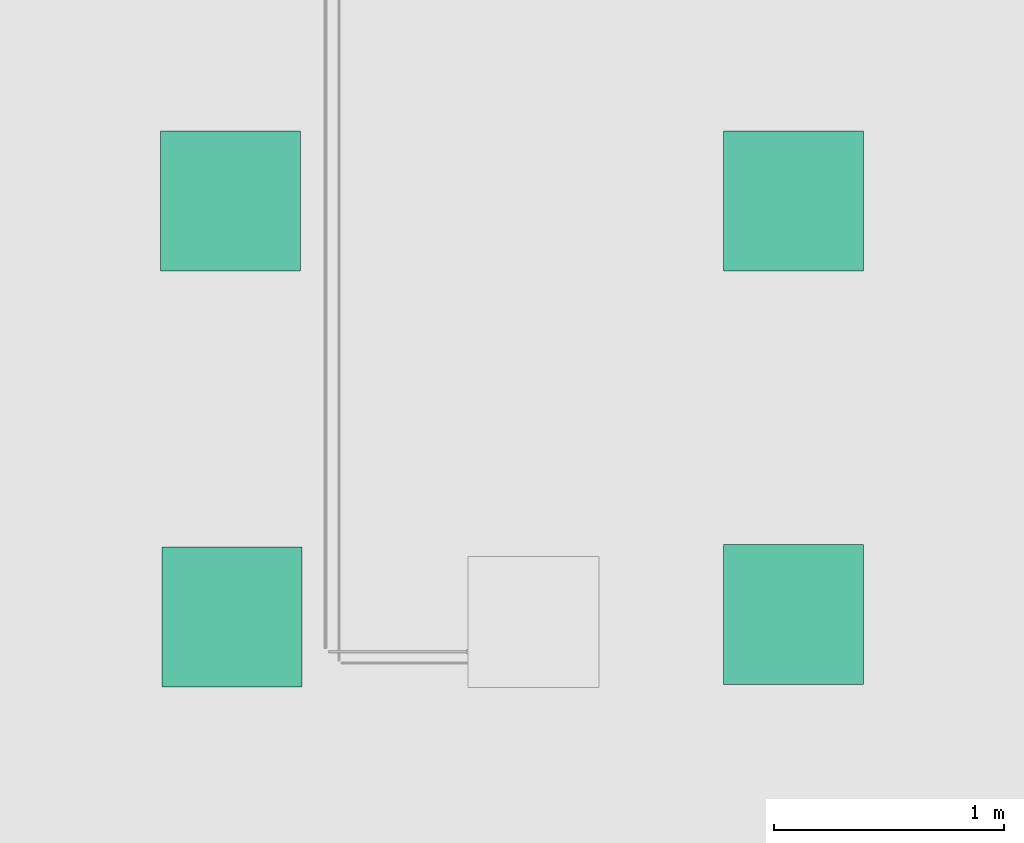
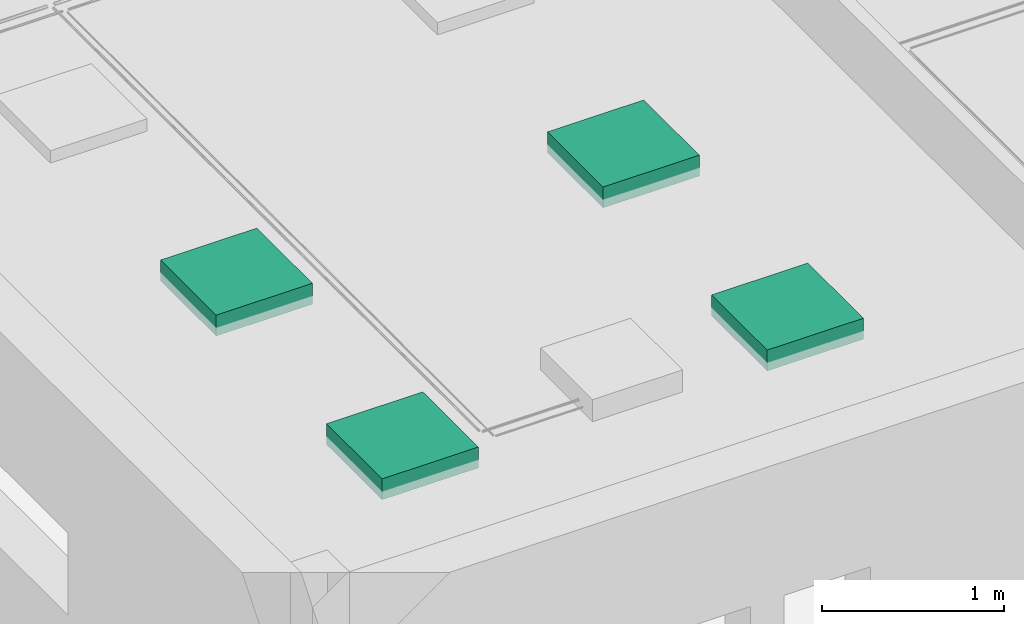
# One storey, part 6 of 24: 4 flow terminals.
"""IFC2X3 building model written with IfcOpenShell, lengths in millimetres."""

from ifc_helpers import new_model, entity, si_unit, converted_unit, derived_unit, direction, frame, frame_2d, origin, origin_2d_with_axis, place, context, subcontext, project, spatial, polyline, rectangle, outline, extrude, source, transform, mapped, material, material_list, type_object, type_shapes, element, save


model = new_model("IFC2X3")

# Units and contexts
model_context = context("Model", 3, precision=0.01, world=origin(), true_north=direction((6.123031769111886e-17, 1.0)))
body_context = subcontext(model_context, "Body", "Model", "MODEL_VIEW")
ifc_project = project(units=[si_unit("LENGTHUNIT", "METRE", prefix="MILLI"), si_unit("AREAUNIT", "SQUARE_METRE"), si_unit("VOLUMEUNIT", "CUBIC_METRE"), converted_unit("PLANEANGLEUNIT", "DEGREE", entity("IfcRatioMeasure", 0.017453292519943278), si_unit("PLANEANGLEUNIT", "RADIAN"), dimensions=[0, 0, 0, 0, 0, 0, 0]), si_unit("MASSUNIT", "GRAM", prefix="KILO"), derived_unit("MASSDENSITYUNIT", [(si_unit("MASSUNIT", "GRAM", prefix="KILO"), 1), (si_unit("LENGTHUNIT", "METRE"), -3)]), derived_unit("MOMENTOFINERTIAUNIT", [(si_unit("LENGTHUNIT", "METRE"), 4)]), si_unit("TIMEUNIT", "SECOND"), si_unit("FREQUENCYUNIT", "HERTZ"), si_unit("THERMODYNAMICTEMPERATUREUNIT", "DEGREE_CELSIUS"), derived_unit("THERMALTRANSMITTANCEUNIT", [(si_unit("MASSUNIT", "GRAM", prefix="KILO"), 1), (si_unit("THERMODYNAMICTEMPERATUREUNIT", "KELVIN"), -1), (si_unit("TIMEUNIT", "SECOND"), -3)]), derived_unit("VOLUMETRICFLOWRATEUNIT", [(si_unit("LENGTHUNIT", "METRE"), 3), (si_unit("TIMEUNIT", "SECOND"), -1)]), derived_unit("MASSFLOWRATEUNIT", [(si_unit("MASSUNIT", "GRAM", prefix="KILO"), 1), (si_unit("TIMEUNIT", "SECOND"), -1)]), derived_unit("ROTATIONALFREQUENCYUNIT", [(si_unit("TIMEUNIT", "SECOND"), -1)]), si_unit("ELECTRICCURRENTUNIT", "AMPERE"), si_unit("ELECTRICVOLTAGEUNIT", "VOLT"), si_unit("POWERUNIT", "WATT"), si_unit("FORCEUNIT", "NEWTON", prefix="KILO"), si_unit("ILLUMINANCEUNIT", "LUX"), si_unit("LUMINOUSFLUXUNIT", "LUMEN"), si_unit("LUMINOUSINTENSITYUNIT", "CANDELA"), derived_unit("USERDEFINED", [(si_unit("MASSUNIT", "GRAM", prefix="KILO"), -1), (si_unit("LENGTHUNIT", "METRE"), -2), (si_unit("TIMEUNIT", "SECOND"), 3), (si_unit("LUMINOUSFLUXUNIT", "LUMEN"), 1)]), derived_unit("SOUNDPOWERUNIT", [(si_unit("MASSUNIT", "GRAM", prefix="KILO"), 1), (si_unit("LENGTHUNIT", "METRE"), 2), (si_unit("TIMEUNIT", "SECOND"), -3)]), derived_unit("SOUNDPRESSUREUNIT", [(si_unit("MASSUNIT", "GRAM", prefix="KILO"), 1), (si_unit("LENGTHUNIT", "METRE"), -1), (si_unit("TIMEUNIT", "SECOND"), -2)]), derived_unit("LINEARVELOCITYUNIT", [(si_unit("LENGTHUNIT", "METRE"), 1), (si_unit("TIMEUNIT", "SECOND"), -1)]), si_unit("PRESSUREUNIT", "PASCAL"), derived_unit("USERDEFINED", [(si_unit("LENGTHUNIT", "METRE"), -2), (si_unit("MASSUNIT", "GRAM", prefix="KILO"), 1), (si_unit("TIMEUNIT", "SECOND"), -2)]), derived_unit("LINEARFORCEUNIT", [(si_unit("MASSUNIT", "GRAM", prefix="KILO"), 1), (si_unit("LENGTHUNIT", "METRE"), 1), (si_unit("TIMEUNIT", "SECOND"), -2), (si_unit("LENGTHUNIT", "METRE"), -1)]), derived_unit("PLANARFORCEUNIT", [(si_unit("MASSUNIT", "GRAM", prefix="KILO"), 1), (si_unit("LENGTHUNIT", "METRE"), 1), (si_unit("TIMEUNIT", "SECOND"), -2), (si_unit("LENGTHUNIT", "METRE"), -2)])], contexts=[model_context])

# Site, building, storey
site_placement = place(None, origin())
site = spatial("IfcSite", under=ifc_project, at=site_placement, Name="Default", CompositionType="ELEMENT")
building_placement = place(site_placement, origin())
building = spatial("IfcBuilding", under=site, at=building_placement, CompositionType="ELEMENT")
storey_placement = place(building_placement, origin())
storey = spatial("IfcBuildingStorey", under=building, at=storey_placement, Name="Level 1", CompositionType="ELEMENT", Elevation=0.0)

# Flow terminals
ifc_material_1 = material(Name="Glass, White, High Luminance")
ifc_material_2 = material(Name="Steel, Chrome Plated 155972")
ifc_material_list_1 = material_list([ifc_material_1, ifc_material_2, ifc_material_1, ifc_material_2])
ifc_material_list_2 = material_list([ifc_material_1, ifc_material_2, ifc_material_1, ifc_material_2])
light_fixture_type_1 = type_object("IfcLightFixtureType", Name="M_Troffer Light - Parabolic Square control rooms:0600x0600mm(2 Lamp) - 120V:0600x0600mm(2 Lamp) - 120V : M_Troffer Light - Parabolic Square control rooms:0600x0600mm(2 Lamp) - 120V", PredefinedType="NOTDEFINED", material=ifc_material_list_2)
shared_shape_1 = source(origin(), body_context, "Body", "SweptSolid", [
    extrude(rectangle(XDim=558.8, YDim=558.7999999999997, at=frame_2d((0.0, 5.400124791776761e-13), x_axis=(1.0, 0.0))), frame((-7760.566741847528, -561.671110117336, 2676.199999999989), z_axis=(0.0, 0.0, 1.0), x_axis=(0.0, 1.0, 0.0)), (0.0, 0.0, 1.0), 6.350000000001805),
    extrude(outline(polyline([(-304.8, -304.8000000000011), (304.8, -304.8000000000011), (304.8, 304.8), (-304.8, 304.8), (-304.8, -304.8000000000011)]), holes=[polyline([(279.4000000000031, 279.39999999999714), (279.4000000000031, -279.40000000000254), (-279.3999999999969, -279.40000000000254), (-279.3999999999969, 279.39999999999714), (279.4000000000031, 279.39999999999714)])]), frame((-7760.566741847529, -561.671110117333, 2600.0), z_axis=(0.0, 0.0, 1.0), x_axis=(0.0, -1.0, 0.0)), (0.0, 0.0, 1.0), 114.29999999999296),
    extrude(rectangle(XDim=558.8000000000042, YDim=558.7999999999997, at=frame_2d((5.684341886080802e-14, 5.400124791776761e-13), x_axis=(1.0, 0.0))), frame((-7760.566741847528, -561.671110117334, 2590.0), z_axis=(0.0, 0.0, 1.0), x_axis=(0.0, 1.0, 0.0)), (0.0, 0.0, 1.0), 59.99999999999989),
    extrude(rectangle(XDim=609.6, YDim=609.6000000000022, at=origin_2d_with_axis()), frame((-7760.5667418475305, -561.671110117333, 2714.2999999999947), z_axis=(0.0, 0.0, 1.0), x_axis=(0.0, 1.0, 0.0)), (0.0, 0.0, 1.0), 25.399999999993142),
])
type_shapes(light_fixture_type_1, [shared_shape_1])
flow_terminal_1_placement = place(storey_placement, origin())
element("IfcFlowTerminal", 1, at=flow_terminal_1_placement, inside=storey, type_object=light_fixture_type_1, material=ifc_material_list_1, context=body_context, shape_type="MappedRepresentation", body=[
    mapped(shared_shape_1, transform((0.0, 0.0, 0.0), scale=1.0)),
])
ifc_material_list_3 = material_list([ifc_material_1, ifc_material_2, ifc_material_1, ifc_material_2])
ifc_material_list_4 = material_list([ifc_material_1, ifc_material_2, ifc_material_1, ifc_material_2])
light_fixture_type_2 = type_object("IfcLightFixtureType", Name="M_Troffer Light - Parabolic Square control rooms:0600x0600mm(2 Lamp) - 120V:0600x0600mm(2 Lamp) - 120V : M_Troffer Light - Parabolic Square control rooms:0600x0600mm(2 Lamp) - 120V", PredefinedType="NOTDEFINED", material=ifc_material_list_4)
shared_shape_2 = source(origin(), body_context, "Body", "SweptSolid", [
    extrude(rectangle(XDim=558.8, YDim=558.7999999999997, at=frame_2d((0.0, -5.400124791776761e-13), x_axis=(1.0, 0.0))), frame((-5310.5667418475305, -561.671110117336, 2676.199999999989), z_axis=(0.0, 0.0, 1.0), x_axis=(0.0, 1.0, 0.0)), (0.0, 0.0, 1.0), 6.350000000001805),
    extrude(outline(polyline([(-304.8, -304.8), (304.8, -304.8), (304.8, 304.8), (-304.8, 304.8), (-304.8, -304.8)]), holes=[polyline([(279.4000000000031, 279.39999999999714), (279.4000000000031, -279.40000000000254), (-279.3999999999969, -279.40000000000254), (-279.3999999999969, 279.39999999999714), (279.4000000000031, 279.39999999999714)])]), frame((-5310.56674184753, -561.671110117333, 2600.0), z_axis=(0.0, 0.0, 1.0), x_axis=(0.0, -1.0, 0.0)), (0.0, 0.0, 1.0), 114.29999999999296),
    extrude(rectangle(XDim=558.8000000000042, YDim=558.7999999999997, at=frame_2d((5.684341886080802e-14, -5.400124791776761e-13), x_axis=(1.0, 0.0))), frame((-5310.5667418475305, -561.671110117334, 2590.0), z_axis=(0.0, 0.0, 1.0), x_axis=(0.0, 1.0, 0.0)), (0.0, 0.0, 1.0), 59.99999999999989),
    extrude(rectangle(XDim=609.6, YDim=609.6000000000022, at=origin_2d_with_axis()), frame((-5310.56674184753, -561.671110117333, 2714.2999999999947), z_axis=(0.0, 0.0, 1.0), x_axis=(0.0, 1.0, 0.0)), (0.0, 0.0, 1.0), 25.399999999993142),
])
type_shapes(light_fixture_type_2, [shared_shape_2])
flow_terminal_2_placement = place(storey_placement, origin())
element("IfcFlowTerminal", 2, at=flow_terminal_2_placement, inside=storey, type_object=light_fixture_type_2, material=ifc_material_list_3, context=body_context, shape_type="MappedRepresentation", body=[
    mapped(shared_shape_2, transform((0.0, 0.0, 0.0), scale=1.0)),
])
ifc_material_list_5 = material_list([ifc_material_1, ifc_material_2, ifc_material_1, ifc_material_2])
ifc_material_list_6 = material_list([ifc_material_1, ifc_material_2, ifc_material_1, ifc_material_2])
light_fixture_type_3 = type_object("IfcLightFixtureType", Name="M_Troffer Light - Parabolic Square control rooms:0600x0600mm(2 Lamp) - 120V:0600x0600mm(2 Lamp) - 120V : M_Troffer Light - Parabolic Square control rooms:0600x0600mm(2 Lamp) - 120V", PredefinedType="NOTDEFINED", material=ifc_material_list_6)
shared_shape_3 = source(origin(), body_context, "Body", "SweptSolid", [
    extrude(rectangle(XDim=558.799999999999, YDim=558.7999999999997, at=frame_2d((2.5579538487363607e-13, -5.400124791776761e-13), x_axis=(1.0, 0.0))), frame((-5310.5667418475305, -2361.6711181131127, 2676.199999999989), z_axis=(0.0, 0.0, 1.0), x_axis=(0.0, 1.0, 0.0)), (0.0, 0.0, 1.0), 6.350000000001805),
    extrude(outline(polyline([(-304.8, -304.8), (304.8000000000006, -304.8), (304.8000000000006, 304.8), (-304.8, 304.8), (-304.8, -304.8)]), holes=[polyline([(279.4000000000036, 279.39999999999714), (279.4000000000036, -279.40000000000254), (-279.39999999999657, -279.40000000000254), (-279.39999999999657, 279.39999999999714), (279.4000000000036, 279.39999999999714)])]), frame((-5310.56674184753, -2361.6711181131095, 2600.0), z_axis=(0.0, 0.0, 1.0), x_axis=(0.0, -1.0, 0.0)), (0.0, 0.0, 1.0), 114.29999999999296),
    extrude(rectangle(XDim=558.8000000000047, YDim=558.7999999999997, at=frame_2d((-1.4210854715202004e-13, -5.400124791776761e-13), x_axis=(1.0, 0.0))), frame((-5310.5667418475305, -2361.6711181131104, 2590.0), z_axis=(0.0, 0.0, 1.0), x_axis=(0.0, 1.0, 0.0)), (0.0, 0.0, 1.0), 59.99999999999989),
    extrude(rectangle(XDim=609.6000000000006, YDim=609.6000000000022, at=origin_2d_with_axis()), frame((-5310.56674184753, -2361.6711181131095, 2714.2999999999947), z_axis=(0.0, 0.0, 1.0), x_axis=(0.0, 1.0, 0.0)), (0.0, 0.0, 1.0), 25.399999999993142),
])
type_shapes(light_fixture_type_3, [shared_shape_3])
flow_terminal_3_placement = place(storey_placement, origin())
element("IfcFlowTerminal", 3, at=flow_terminal_3_placement, inside=storey, type_object=light_fixture_type_3, material=ifc_material_list_5, context=body_context, shape_type="MappedRepresentation", body=[
    mapped(shared_shape_3, transform((0.0, 0.0, 0.0), scale=1.0)),
])
ifc_material_list_7 = material_list([ifc_material_1, ifc_material_2, ifc_material_1, ifc_material_2])
ifc_material_list_8 = material_list([ifc_material_1, ifc_material_2, ifc_material_1, ifc_material_2])
light_fixture_type_4 = type_object("IfcLightFixtureType", Name="M_Troffer Light - Parabolic Square control rooms:0600x0600mm(2 Lamp) - 120V:0600x0600mm(2 Lamp) - 120V : M_Troffer Light - Parabolic Square control rooms:0600x0600mm(2 Lamp) - 120V", PredefinedType="NOTDEFINED", material=ifc_material_list_8)
shared_shape_4 = source(origin(), body_context, "Body", "SweptSolid", [
    extrude(rectangle(XDim=558.7999999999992, YDim=558.7999999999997, at=frame_2d((0.0, 5.400124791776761e-13), x_axis=(1.0, 0.0))), frame((-7755.040579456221, -2372.4738845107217, 2676.199999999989), z_axis=(0.0, 0.0, 1.0), x_axis=(0.0, 1.0, 0.0)), (0.0, 0.0, 1.0), 6.350000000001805),
    extrude(outline(polyline([(-304.8000000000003, -304.8000000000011), (304.8, -304.8000000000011), (304.8, 304.8), (-304.8000000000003, 304.8), (-304.8000000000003, -304.8000000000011)]), holes=[polyline([(279.4000000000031, 279.39999999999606), (279.4000000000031, -279.40000000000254), (-279.3999999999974, -279.40000000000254), (-279.3999999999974, 279.39999999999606), (279.4000000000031, 279.39999999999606)])]), frame((-7755.04057945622, -2372.473884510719, 2600.0), z_axis=(0.0, 0.0, 1.0), x_axis=(0.0, -1.0, 0.0)), (0.0, 0.0, 1.0), 114.29999999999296),
    extrude(rectangle(XDim=558.8000000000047, YDim=558.7999999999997, at=frame_2d((-1.4210854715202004e-13, 5.400124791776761e-13), x_axis=(1.0, 0.0))), frame((-7755.040579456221, -2372.4738845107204, 2590.0), z_axis=(0.0, 0.0, 1.0), x_axis=(0.0, 1.0, 0.0)), (0.0, 0.0, 1.0), 59.99999999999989),
    extrude(rectangle(XDim=609.6000000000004, YDim=609.6000000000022, at=frame_2d((1.4210854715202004e-13, 0.0), x_axis=(1.0, 0.0))), frame((-7755.04057945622, -2372.473884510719, 2714.2999999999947), z_axis=(0.0, 0.0, 1.0), x_axis=(0.0, 1.0, 0.0)), (0.0, 0.0, 1.0), 25.399999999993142),
])
type_shapes(light_fixture_type_4, [shared_shape_4])
flow_terminal_4_placement = place(storey_placement, origin())
element("IfcFlowTerminal", 4, at=flow_terminal_4_placement, inside=storey, type_object=light_fixture_type_4, material=ifc_material_list_7, context=body_context, shape_type="MappedRepresentation", body=[
    mapped(shared_shape_4, transform((0.0, 0.0, 0.0), scale=1.0)),
])

save(model, "model.ifc")
